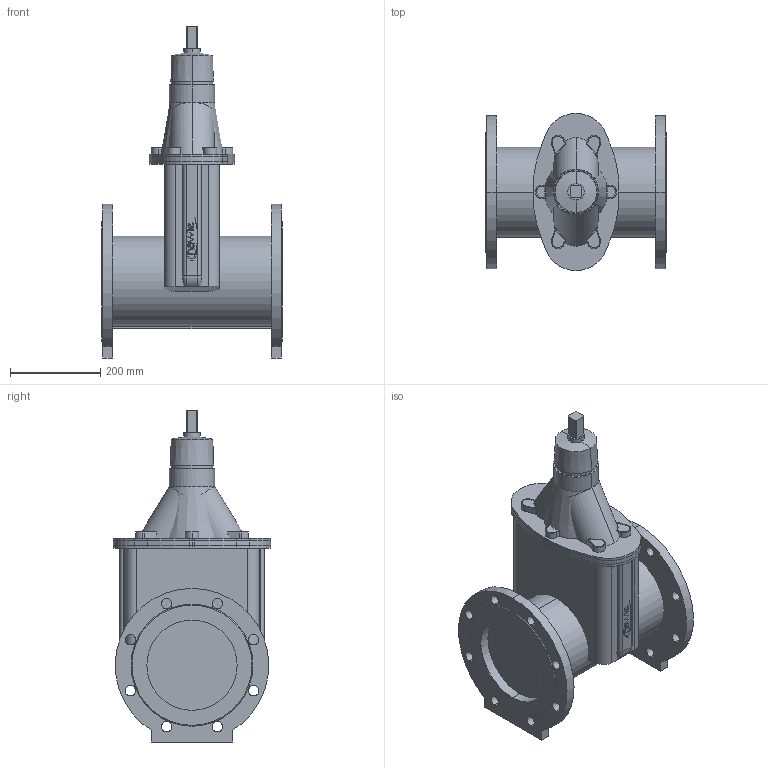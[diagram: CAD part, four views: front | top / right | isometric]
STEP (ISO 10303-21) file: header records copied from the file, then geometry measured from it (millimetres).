
FILE_DESCRIPTION(('STEP AP214'),'1');
FILE_NAME('S:/EK/USER/CAT6/3DHomepage/4700E2/4700E2-PN10-DN200.STP','2012-04-23T12:30:39',(' '),(' '),'Spatial InterOp 3D',' ',' ');
FILE_SCHEMA(('automotive_design'));
Length unit declared in the file: millimetre
Products named in the file (51): 3D-Objekt
Bounding box: 400 x 348.01 x 735 mm (x, y, z)
Volume: 28669269.9 mm3; surface area: 1756718.5 mm2
Topology: 51 solids, 51 shells, 482 faces, 1134 edges, 756 vertices
Faces by surface type: plane 248, cylinder 216, cone 10, bspline 4, torus 4
Entity records: 19161 total; most frequent: DIRECTION 2664, CARTESIAN_POINT 2491, ORIENTED_EDGE 2268, EDGE_CURVE 1134, AXIS2_PLACEMENT_3D 1001, VERTEX_POINT 756, LINE 662, VECTOR 662
